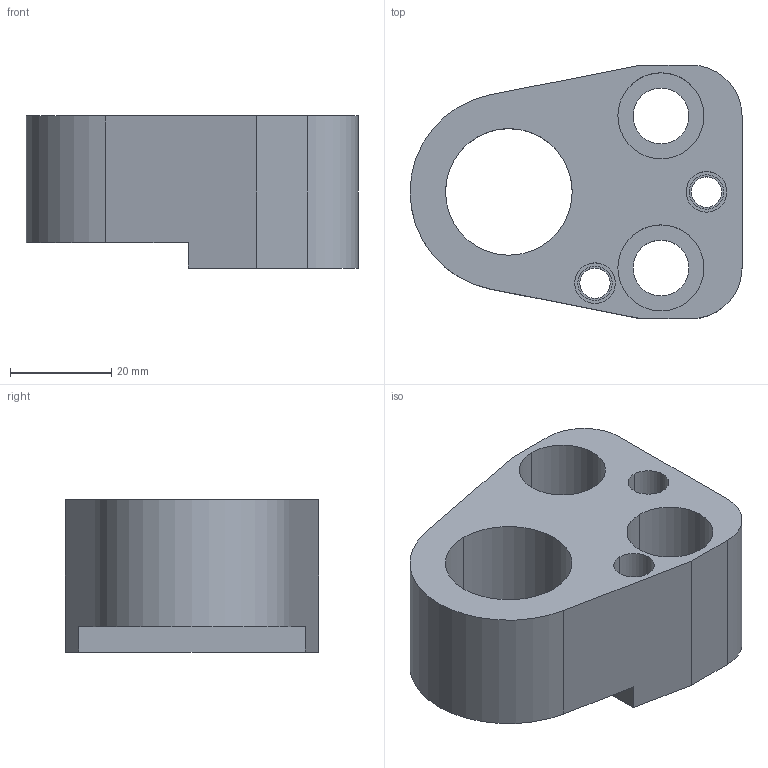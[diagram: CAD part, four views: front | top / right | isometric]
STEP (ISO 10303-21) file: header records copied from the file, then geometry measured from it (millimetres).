
FILE_DESCRIPTION(/* description */ (''),/* implementation_level */ '2;1');
FILE_NAME(/* name */ '3d_dp-fn25_03700_r00.stp',/* time_stamp */ '2011-01-10T14:15:56+09:00',/* author */ ('MISUMI'),/* organization */ (''),/* preprocessor_version */ 'ST-DEVELOPER v11',/* originating_system */ 'UGS - NX 5.0',/* authorisation */ '');
FILE_SCHEMA (('CONFIG_CONTROL_DESIGN'));
Length unit declared in the file: millimetre
Products named in the file (1): 3d_dp-fn25_03700_r00
Bounding box: 65.5 x 50 x 30 mm (x, y, z)
Volume: 52446.1 mm3; surface area: 15444.2 mm2
Topology: 1 solids, 1 shells, 42 faces, 104 edges, 69 vertices
Faces by surface type: cylinder 25, plane 15, cone 2
Entity records: 1380 total; most frequent: DIRECTION 242, CARTESIAN_POINT 219, ORIENTED_EDGE 208, EDGE_CURVE 104, AXIS2_PLACEMENT_3D 96, VERTEX_POINT 69, EDGE_LOOP 57, CIRCLE 53
